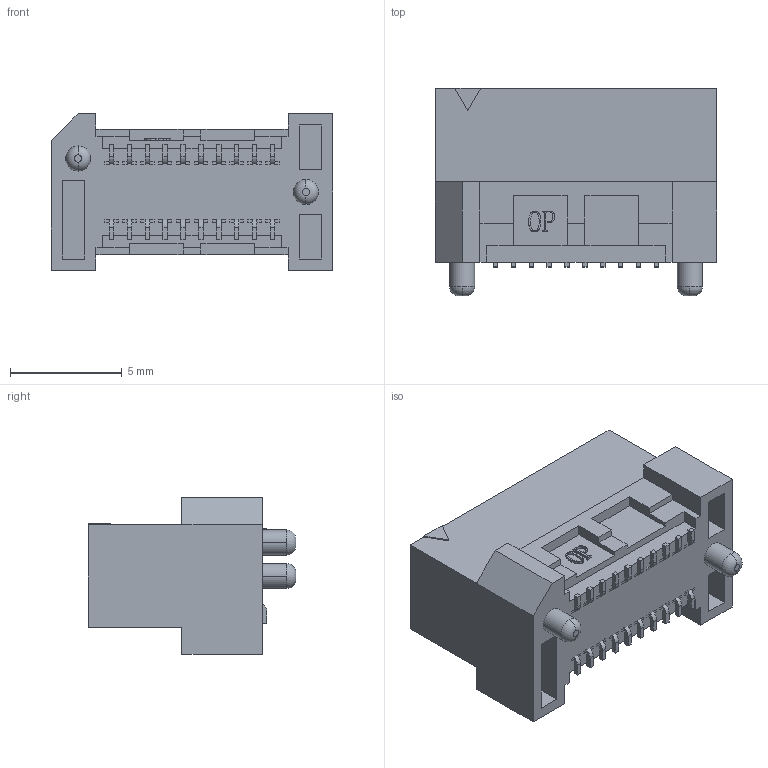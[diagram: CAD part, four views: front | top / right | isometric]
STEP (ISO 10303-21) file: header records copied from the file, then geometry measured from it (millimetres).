
FILE_DESCRIPTION (( 'STEP AP214' ), '1' );
FILE_NAME ('8206-2X10C30DPT-S.STEP', '2016-08-11T09:42:13', ( 'admin' ), ( '' ), 'SwSTEP 2.0', 'SolidWorks 2011', '' );
FILE_SCHEMA (( 'AUTOMOTIVE_DESIGN' ));
Length unit declared in the file: millimetre
Products named in the file (3): 8206-2X10C30DPT-S; 8206-2X10B_Default; 8206-PIN-D1_Default
Assembly tree (21 placements, depth 2):
  8206-2X10C30DPT-S
    8206-PIN-D1_Default  x20
    8206-2X10B_Default
Bounding box: 12.6 x 9.3 x 7 mm (x, y, z)
Volume: 365.1 mm3; surface area: 786.3 mm2
Topology: 61 solids, 61 shells, 1093 faces, 2798 edges, 1837 vertices
Faces by surface type: plane 893, cylinder 164, bspline 32, torus 4
Entity records: 10558 total; most frequent: CARTESIAN_POINT 2867, ORIENTED_EDGE 1530, DIRECTION 1342, EDGE_CURVE 765, LINE 658, VECTOR 658, VERTEX_POINT 507, AXIS2_PLACEMENT_3D 342
